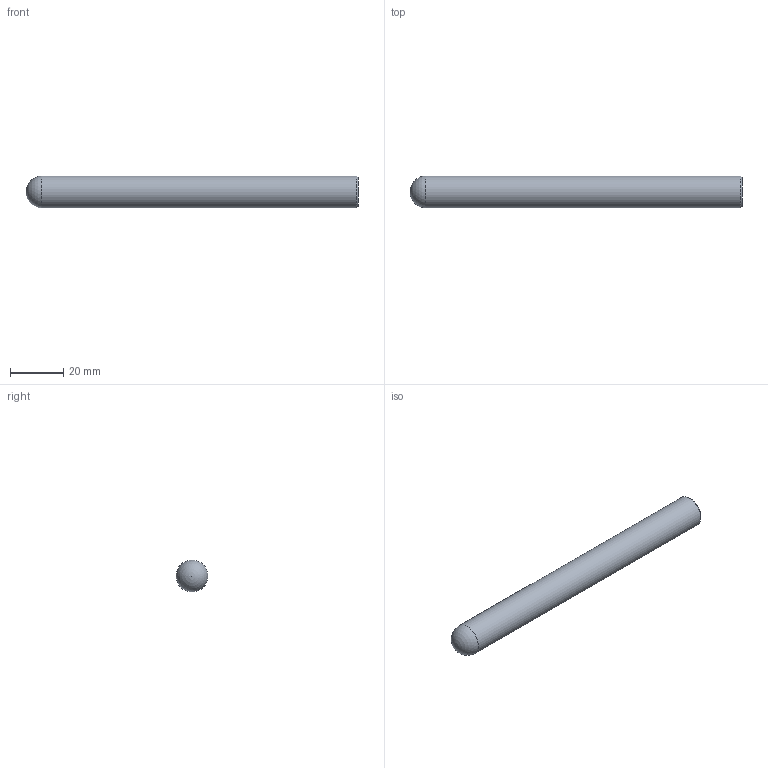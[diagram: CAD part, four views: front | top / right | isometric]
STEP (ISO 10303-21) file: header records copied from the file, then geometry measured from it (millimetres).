
FILE_DESCRIPTION(/* description */ (''),/* implementation_level */ '2;1');
FILE_NAME(/* name */ 'HSXB2120 12125.stp',/* time_stamp */ '2026-08-03T10:33:23+08:00',/* author */ (''),/* organization */ (''),/* preprocessor_version */ 'ST-DEVELOPER v16',/* originating_system */ 'SIEMENS PLM Software NX 10.0',/* authorisation */ '');
FILE_SCHEMA (('CONFIG_CONTROL_DESIGN'));
Length unit declared in the file: millimetre
Products named in the file (1): HSXB2120 12125_dxf
Bounding box: 125 x 12 x 12 mm (x, y, z)
Volume: 13904.4 mm3; surface area: 4811.8 mm2
Topology: 1 solids, 1 shells, 4 faces, 8 edges, 5 vertices
Faces by surface type: plane 1, sphere 1, cylinder 1, cone 1
Full cylindrical faces by diameter (mm): 12 x1
Entity records: 158 total; most frequent: DIRECTION 16, CARTESIAN_POINT 11, AXIS2_PLACEMENT_3D 8, PERSON_AND_ORGANIZATION 7, ORGANIZATION 7, EDGE_LOOP 6, ORIENTED_EDGE 6, DATE_AND_TIME 5
